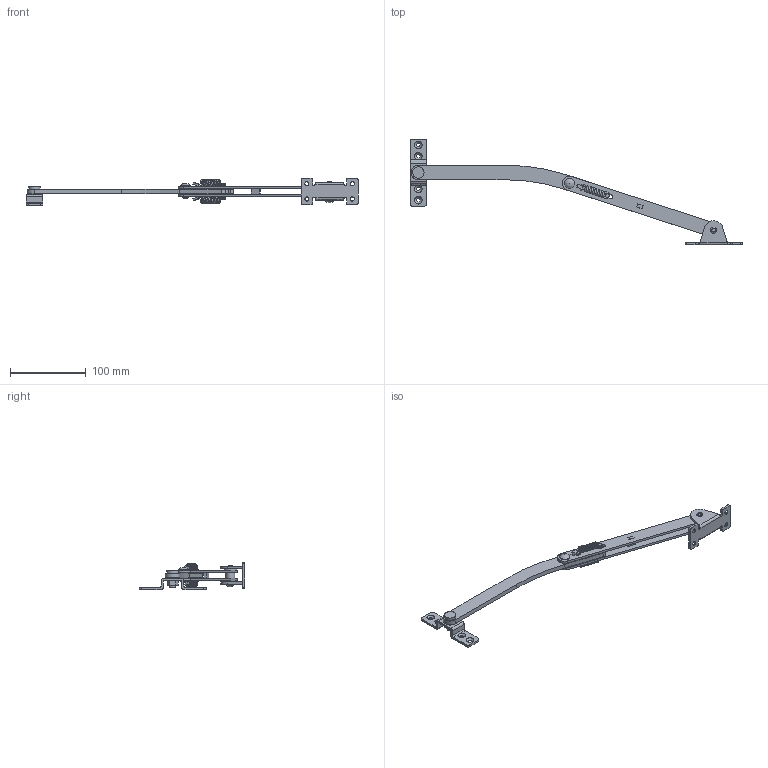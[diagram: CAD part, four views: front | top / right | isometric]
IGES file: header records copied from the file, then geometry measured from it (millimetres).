
Global section: file name: DR_SY7-1; native system: Autodesk Inventor 2015; preprocessor: unknown; author: Administrator; date: 20180309.173725; units: millimetre
Bounding box: 438.2 x 139.82 x 36.5 mm (x, y, z)
Volume: 77549.5 mm3; surface area: 51935.8 mm2
Topology: 8 solids, 8 shells, 277 faces, 742 edges, 495 vertices
Faces by surface type: bspline 277
